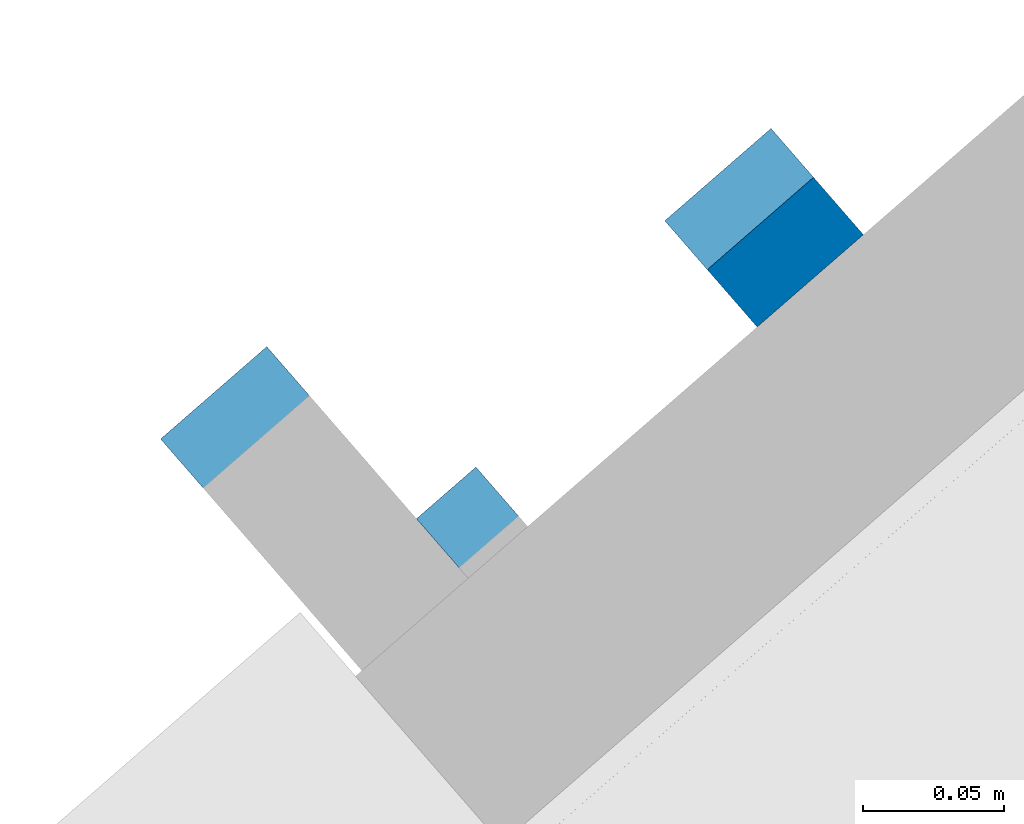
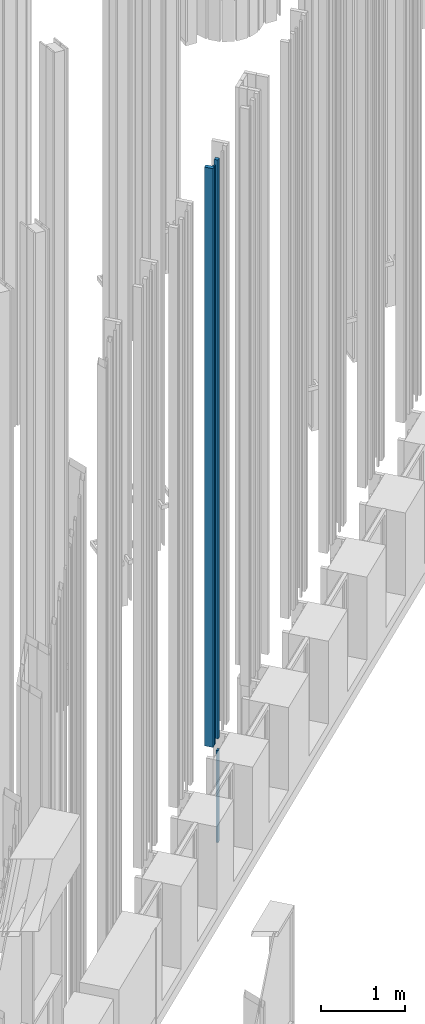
# One storey, part 233 of 390: 4 walls.
"""IFC2X3 building model written with IfcOpenShell, lengths in millimetres."""

from ifc_helpers import new_model, entity, si_unit, converted_unit, derived_unit, money_unit, direction, frame, origin_with_axes, place, context, subcontext, project, spatial, faceted_brep, material, type_object, element, save


model = new_model("IFC2X3")

# Units and contexts
model_context = context("Model", 3, precision=1e-05, world=origin_with_axes(), true_north=direction((0.0, 1.0)))
body_context = subcontext(model_context, "Body", "Model", "MODEL_VIEW")
ifc_project = project(units=[si_unit("LENGTHUNIT", "METRE", prefix="MILLI"), si_unit("AREAUNIT", "SQUARE_METRE"), si_unit("VOLUMEUNIT", "CUBIC_METRE"), converted_unit("PLANEANGLEUNIT", "DEGREE", entity("IfcPlaneAngleMeasure", 0.0174532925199), si_unit("PLANEANGLEUNIT", "RADIAN"), dimensions=[0, 0, 0, 0, 0, 0, 0]), si_unit("SOLIDANGLEUNIT", "STERADIAN"), money_unit("EUR"), converted_unit("TIMEUNIT", "Year", entity("IfcTimeMeasure", 31556926.0), si_unit("TIMEUNIT", "SECOND"), dimensions=[0, 0, 1, 0, 0, 0, 0]), si_unit("MASSUNIT", "GRAM", prefix="KILO"), si_unit("THERMODYNAMICTEMPERATUREUNIT", "DEGREE_CELSIUS"), si_unit("LUMINOUSINTENSITYUNIT", "LUMEN"), si_unit("ENERGYUNIT", "JOULE", prefix="MEGA"), derived_unit("THERMALCONDUCTANCEUNIT", [(si_unit("POWERUNIT", "WATT"), 1), (si_unit("LENGTHUNIT", "METRE"), -1), (si_unit("THERMODYNAMICTEMPERATUREUNIT", "KELVIN"), -1)]), derived_unit("SPECIFICHEATCAPACITYUNIT", [(si_unit("ENERGYUNIT", "JOULE"), 1), (si_unit("MASSUNIT", "GRAM", prefix="KILO"), -1), (si_unit("THERMODYNAMICTEMPERATUREUNIT", "KELVIN"), -1)]), derived_unit("MASSDENSITYUNIT", [(si_unit("MASSUNIT", "GRAM", prefix="KILO"), 1), (si_unit("VOLUMEUNIT", "CUBIC_METRE"), -1)])], contexts=[model_context])

# Site, building, storey
site_placement = place(None, origin_with_axes())
site = spatial("IfcSite", under=ifc_project, at=site_placement, Name="Site", CompositionType="ELEMENT")
building_placement = place(site_placement, origin_with_axes())
building = spatial("IfcBuilding", under=site, at=building_placement, Name="Building", CompositionType="ELEMENT")
storey_placement = place(building_placement, origin_with_axes())
storey = spatial("IfcBuildingStorey", under=building, at=storey_placement, Name="1 korrus", CompositionType="ELEMENT", Elevation=0.0)

# Walls
ifc_material = material(Name="Site specified")
wall_type = type_object("IfcWallType", Name="Puitfassaadi ribistik", PredefinedType="NOTDEFINED")
wall_1_placement = place(storey_placement, frame((140980.861976, 92628.2972726, 1500.30748856), z_axis=(0.0, 0.0, 1.0), x_axis=(0.754709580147, 0.656059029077, 0.0)))
element("IfcWall", 1, at=wall_1_placement, inside=storey, type_object=wall_type, material=ifc_material, Name="Site specified", context=body_context, shape_type="Brep", body=[
    faceted_brep([(25.0, 54.5, 8364.69251144), (25.0, 54.5, 0.0), (-25.0, 54.5, 0.0), (-25.0, 54.5, 8364.69251144), (25.0, -54.5, 8364.69251144), (25.0, -54.5, 0.0), (-25.0, -54.5, 0.0), (-25.0, -54.5, 8364.69251144)], [[[0, 1, 2, 3]], [[4, 5, 1, 0]], [[2, 1, 5, 6]], [[3, 2, 6, 7]], [[4, 0, 3, 7]], [[7, 6, 5, 4]]]),
])
wall_2_placement = place(storey_placement, frame((141036.86604, 92623.3178368, 1500.30748856), z_axis=(0.0, 0.0, 1.0), x_axis=(0.754709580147, 0.656059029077, 0.0)))
element("IfcWall", 2, at=wall_2_placement, inside=storey, type_object=wall_type, material=ifc_material, Name="Site specified", context=body_context, shape_type="Brep", body=[
    faceted_brep([(14.0, 14.0, 8364.69251144), (14.0, 14.0, 0.0), (-14.0, 14.0, 0.0), (-14.0, 14.0, 8364.69251144), (14.0, -14.0, 8364.69251144), (14.0, -14.0, 0.0), (-14.0, -14.0, 0.0), (-14.0, -14.0, 8364.69251144)], [[[0, 1, 2, 3]], [[4, 5, 1, 0]], [[2, 1, 5, 6]], [[3, 2, 6, 7]], [[4, 0, 3, 7]], [[7, 6, 5, 4]]]),
])
wall_3_placement = place(storey_placement, frame((141140.591699, 92728.0603194, 1500.30748856), z_axis=(0.0, 0.0, 1.0), x_axis=(0.754709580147, 0.656059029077, 0.0)))
element("IfcWall", 3, at=wall_3_placement, inside=storey, type_object=wall_type, material=ifc_material, Name="Site specified", context=body_context, shape_type="Brep", body=[
    faceted_brep([(25.0, 25.0, 8364.69251144), (25.0, 25.0, 0.0), (-25.0, 25.0, 0.0), (-25.0, 25.0, 8364.69251144), (25.0, -25.0, 8364.69251144), (25.0, -25.0, 0.0), (-25.0, -25.0, 0.0), (-25.0, -25.0, 8364.69251144)], [[[0, 1, 2, 3]], [[4, 5, 1, 0]], [[2, 1, 5, 6]], [[3, 2, 6, 7]], [[4, 0, 3, 7]], [[7, 6, 5, 4]]]),
])
wall_4_placement = place(storey_placement, frame((141155.681056, 92710.7019988, 0.0), z_axis=(0.0, 0.0, 1.0), x_axis=(0.754709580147, 0.656059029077, 0.0)))
element("IfcWall", 4, at=wall_4_placement, inside=storey, type_object=wall_type, material=ifc_material, Name="Site specified", context=body_context, shape_type="Brep", body=[
    faceted_brep([(-25.0, 25.0, 1330.0), (-25.0, -2.01208351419, 1330.0), (25.000000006, -2.0122019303, 1330.0), (25.0, 25.0, 1330.0), (-25.0, 25.0, 0.0), (-25.0, -2.01462383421, 0.0), (25.0, -2.01473703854, 0.0), (25.0, 25.0, 0.0)], [[[0, 1, 2, 3]], [[4, 5, 1, 0]], [[5, 6, 2, 1]], [[3, 2, 6, 7]], [[0, 3, 7, 4]], [[7, 6, 5, 4]]]),
])

save(model, "model.ifc")
